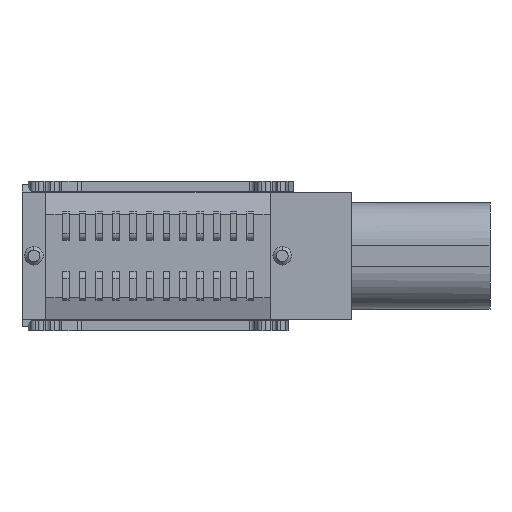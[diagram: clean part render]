
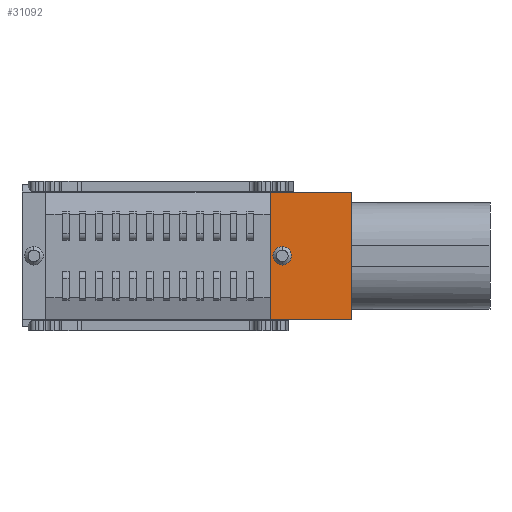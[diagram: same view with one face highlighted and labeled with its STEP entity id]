
A CAD part, front view. The second image highlights one B-rep face of the part: STEP entity #31092.
In plain terms, the highlighted planar face has unit normal (0, -1, 0).
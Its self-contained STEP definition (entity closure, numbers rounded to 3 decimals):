
#1223 = LINE ( 'NONE', #13854, #19312 ) ;
#1228 = VECTOR ( 'NONE', #15414, 1000. ) ;
#1646 = CARTESIAN_POINT ( 'NONE',  ( 22.572, 477.374, -0.98 ) ) ;
#3046 = CARTESIAN_POINT ( 'NONE',  ( 22.217, 477.374, 0.64 ) ) ;
#3431 = AXIS2_PLACEMENT_3D ( 'NONE', #6865, #16212, #28784 ) ;
#3475 = CARTESIAN_POINT ( 'NONE',  ( 24.647, 477.374, -3.15 ) ) ;
#3765 = ORIENTED_EDGE ( 'NONE', *, *, #11320, .T. ) ;
#4126 = EDGE_CURVE ( 'NONE', #25379, #23790, #25516, .T. ) ;
#4235 = CIRCLE ( 'NONE', #20101, 0.275 ) ;
#5356 = EDGE_LOOP ( 'NONE', ( #7148, #3765, #10520, #31247 ) ) ;
#5568 = EDGE_LOOP ( 'NONE', ( #28729, #28498 ) ) ;
#5866 = LINE ( 'NONE', #18508, #1228 ) ;
#6865 = CARTESIAN_POINT ( 'NONE',  ( 22.572, 477.374, -1.255 ) ) ;
#7148 = ORIENTED_EDGE ( 'NONE', *, *, #4126, .F. ) ;
#7363 = VERTEX_POINT ( 'NONE', #3046 ) ;
#8141 = VERTEX_POINT ( 'NONE', #23184 ) ;
#8188 = DIRECTION ( 'NONE',  ( 0., -1., 0. ) ) ;
#8390 = FACE_BOUND ( 'NONE', #5568, .T. ) ;
#10253 = VECTOR ( 'NONE', #16530, 1000. ) ;
#10506 = CARTESIAN_POINT ( 'NONE',  ( 24.647, 477.374, 0. ) ) ;
#10520 = ORIENTED_EDGE ( 'NONE', *, *, #39375, .F. ) ;
#11298 = AXIS2_PLACEMENT_3D ( 'NONE', #33619, #8188, #20835 ) ;
#11318 = VECTOR ( 'NONE', #38119, 1000. ) ;
#11320 = EDGE_CURVE ( 'NONE', #25379, #8141, #22487, .T. ) ;
#12784 = CIRCLE ( 'NONE', #3431, 0.275 ) ;
#13131 = CARTESIAN_POINT ( 'NONE',  ( 15.067, 477.374, -3.15 ) ) ;
#13340 = VERTEX_POINT ( 'NONE', #1646 ) ;
#13676 = CARTESIAN_POINT ( 'NONE',  ( 22.572, 477.374, -1.255 ) ) ;
#13854 = CARTESIAN_POINT ( 'NONE',  ( 22.217, 477.374, 0. ) ) ;
#15414 = DIRECTION ( 'NONE',  ( 1., 0., 0. ) ) ;
#16212 = DIRECTION ( 'NONE',  ( 0., 1., 0. ) ) ;
#16382 = DIRECTION ( 'NONE',  ( 0., 0., -1. ) ) ;
#16530 = DIRECTION ( 'NONE',  ( 0., 0., 1. ) ) ;
#16558 = DIRECTION ( 'NONE',  ( 0., 0., -1. ) ) ;
#18131 = CARTESIAN_POINT ( 'NONE',  ( 22.217, 477.374, -3.15 ) ) ;
#18508 = CARTESIAN_POINT ( 'NONE',  ( 15.067, 477.374, 0.64 ) ) ;
#19312 = VECTOR ( 'NONE', #16558, 1000. ) ;
#20101 = AXIS2_PLACEMENT_3D ( 'NONE', #13676, #32059, #16382 ) ;
#20835 = DIRECTION ( 'NONE',  ( 0., 0., -1. ) ) ;
#22188 = VERTEX_POINT ( 'NONE', #36465 ) ;
#22487 = LINE ( 'NONE', #10506, #10253 ) ;
#22852 = EDGE_CURVE ( 'NONE', #22188, #13340, #4235, .T. ) ;
#23184 = CARTESIAN_POINT ( 'NONE',  ( 24.647, 477.374, 0.64 ) ) ;
#23790 = VERTEX_POINT ( 'NONE', #18131 ) ;
#23913 = PLANE ( 'NONE',  #11298 ) ;
#25379 = VERTEX_POINT ( 'NONE', #3475 ) ;
#25516 = LINE ( 'NONE', #13131, #11318 ) ;
#28498 = ORIENTED_EDGE ( 'NONE', *, *, #34545, .T. ) ;
#28729 = ORIENTED_EDGE ( 'NONE', *, *, #22852, .T. ) ;
#28784 = DIRECTION ( 'NONE',  ( 0., 0., -1. ) ) ;
#31092 = ADVANCED_FACE ( 'NONE', ( #8390, #37123 ), #23913, .T. ) ;
#31247 = ORIENTED_EDGE ( 'NONE', *, *, #32408, .T. ) ;
#32059 = DIRECTION ( 'NONE',  ( 0., 1., 0. ) ) ;
#32408 = EDGE_CURVE ( 'NONE', #7363, #23790, #1223, .T. ) ;
#33619 = CARTESIAN_POINT ( 'NONE',  ( 23.247, 477.374, 0. ) ) ;
#34545 = EDGE_CURVE ( 'NONE', #13340, #22188, #12784, .T. ) ;
#36465 = CARTESIAN_POINT ( 'NONE',  ( 22.572, 477.374, -1.53 ) ) ;
#37123 = FACE_OUTER_BOUND ( 'NONE', #5356, .T. ) ;
#38119 = DIRECTION ( 'NONE',  ( -1., 0., 0. ) ) ;
#39375 = EDGE_CURVE ( 'NONE', #7363, #8141, #5866, .T. ) ;
